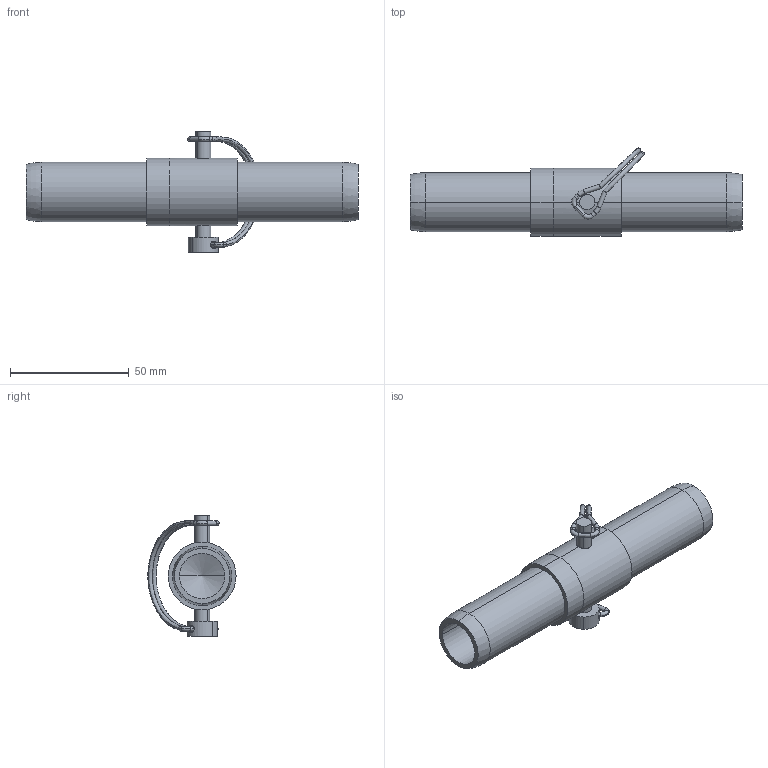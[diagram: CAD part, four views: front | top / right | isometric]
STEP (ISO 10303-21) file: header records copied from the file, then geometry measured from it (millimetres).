
FILE_DESCRIPTION (( 'STEP AP214' ), '1' );
FILE_NAME ('1 Inch Pinned Joint.STEP', '2014-01-10T16:42:15', ( 'ydmin' ), ( 'Microsoft' ), 'SwSTEP 2.0', 'SolidWorks 2013', '' );
FILE_SCHEMA (( 'AUTOMOTIVE_DESIGN' ));
Length unit declared in the file: inch
Products named in the file (1): 1 Inch Pinned Joint
Bounding box: 139.7 x 37.1 x 50.8 mm (x, y, z)
Volume: 45735.4 mm3; surface area: 25556.1 mm2
Topology: 4 solids, 4 shells, 88 faces, 196 edges, 113 vertices
Faces by surface type: cylinder 40, torus 22, plane 10, cone 8, bspline 8
Entity records: 4785 total; most frequent: CARTESIAN_POINT 1628, DIRECTION 434, ORIENTED_EDGE 388, EDGE_CURVE 194, AXIS2_PLACEMENT_3D 191, VERTEX_POINT 113, CIRCLE 110, EDGE_LOOP 99
